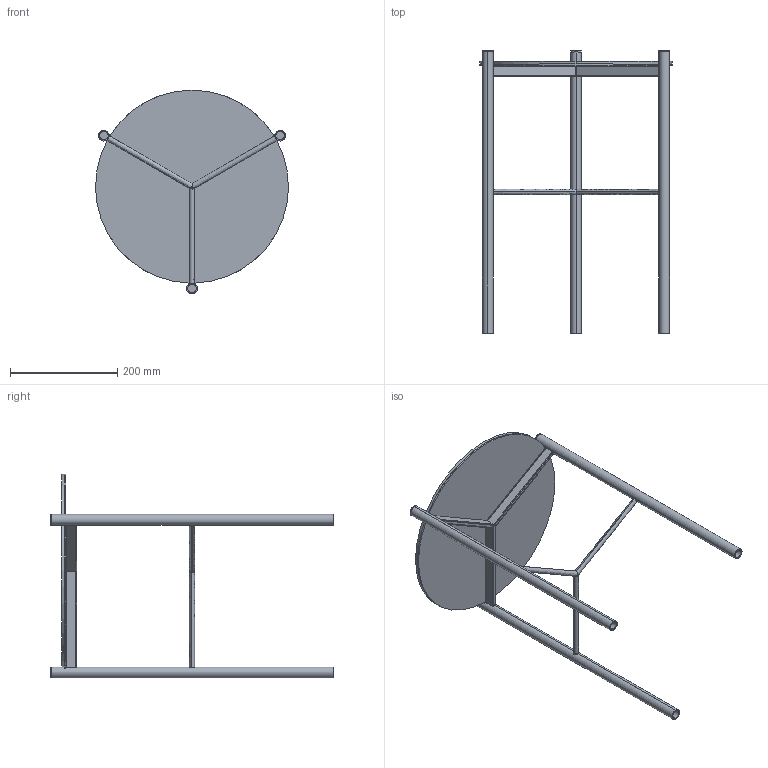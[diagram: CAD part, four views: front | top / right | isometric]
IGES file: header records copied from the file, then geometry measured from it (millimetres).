
Start section: SolidWorks IGES file using analytic representation for surfaces
Global section: file name: Y:\eforma\TECNICO\SOLIDWORKS\E-FORMA\2-TAVOLINI\JACK\02 parts\J601G.IGS; native system: SolidWorks 2022; preprocessor: SolidWorks 2022; author: eforma.tech; date: 240806.133342; units: millimetre
Bounding box: 360 x 527 x 380.07 mm (x, y, z)
Volume: 1036737.1 mm3; surface area: 682607.6 mm2
Topology: 14 solids, 14 shells, 125 faces, 293 edges, 194 vertices
Faces by surface type: revolution 73, plane 52
